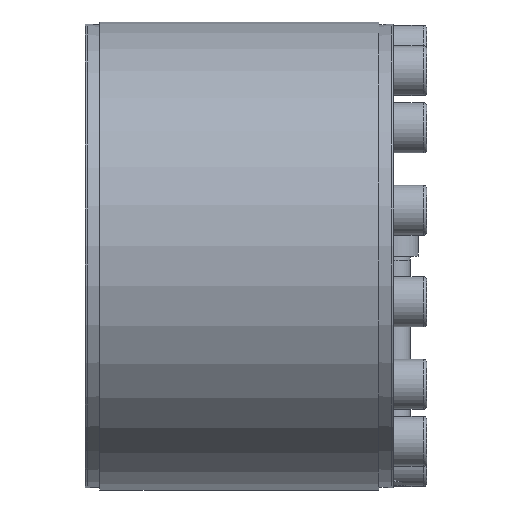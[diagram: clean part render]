
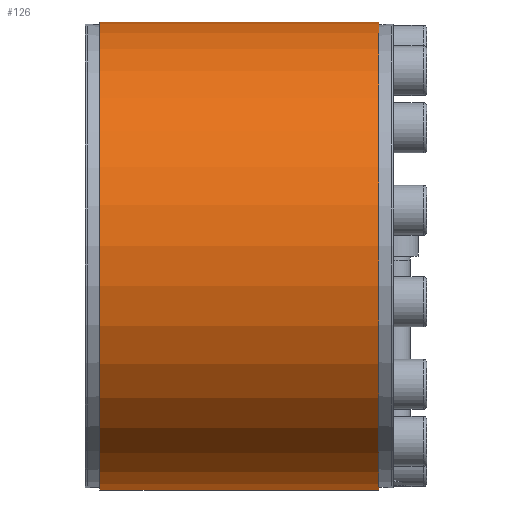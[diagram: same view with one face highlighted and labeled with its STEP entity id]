
A CAD part, left-side view. The second image highlights one B-rep face of the part: STEP entity #126.
In plain terms, the highlighted cylindrical face has radius 112.5 mm (diameter 225 mm), a partial arc.
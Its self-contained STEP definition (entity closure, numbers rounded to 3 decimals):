
#126 = ADVANCED_FACE( '', ( #319 ), #320, .T. );
#319 = FACE_OUTER_BOUND( '', #673, .T. );
#320 = CYLINDRICAL_SURFACE( '', #674, 112.5 );
#673 = EDGE_LOOP( '', ( #1104, #1105, #1106, #1107 ) );
#674 = AXIS2_PLACEMENT_3D( '', #1108, #1109, #1110 );
#1104 = ORIENTED_EDGE( '', *, *, #1640, .F. );
#1105 = ORIENTED_EDGE( '', *, *, #1650, .T. );
#1106 = ORIENTED_EDGE( '', *, *, #1651, .F. );
#1107 = ORIENTED_EDGE( '', *, *, #1652, .F. );
#1108 = CARTESIAN_POINT( '', ( 0., -60., 0. ) );
#1109 = DIRECTION( '', ( 0., 1., 0. ) );
#1110 = DIRECTION( '', ( 0., 0., -1. ) );
#1640 = EDGE_CURVE( '', #1942, #1944, #1945, .T. );
#1650 = EDGE_CURVE( '', #1942, #1960, #1961, .T. );
#1651 = EDGE_CURVE( '', #1962, #1960, #1963, .F. );
#1652 = EDGE_CURVE( '', #1944, #1962, #1964, .T. );
#1942 = VERTEX_POINT( '', #2427 );
#1944 = VERTEX_POINT( '', #2430 );
#1945 = LINE( '', #2431, #2432 );
#1960 = VERTEX_POINT( '', #2454 );
#1961 = CIRCLE( '', #2455, 112.5 );
#1962 = VERTEX_POINT( '', #2456 );
#1963 = LINE( '', #2457, #2458 );
#1964 = CIRCLE( '', #2459, 112.5 );
#2427 = CARTESIAN_POINT( '', ( 23.569, 141., 110.003 ) );
#2430 = CARTESIAN_POINT( '', ( 23.569, 7., 110.003 ) );
#2431 = CARTESIAN_POINT( '', ( 23.569, -60., 110.003 ) );
#2432 = VECTOR( '', #2818, 1000. );
#2454 = CARTESIAN_POINT( '', ( 26.494, 141., 109.336 ) );
#2455 = AXIS2_PLACEMENT_3D( '', #2829, #2830, #2831 );
#2456 = CARTESIAN_POINT( '', ( 26.494, 7., 109.336 ) );
#2457 = CARTESIAN_POINT( '', ( 26.494, -60., 109.336 ) );
#2458 = VECTOR( '', #2832, 1000. );
#2459 = AXIS2_PLACEMENT_3D( '', #2833, #2834, #2835 );
#2818 = DIRECTION( '', ( 0., -1., 0. ) );
#2829 = CARTESIAN_POINT( '', ( 0., 141., 0. ) );
#2830 = DIRECTION( '', ( 0., -1., 0. ) );
#2831 = DIRECTION( '', ( 0., 0., -1. ) );
#2832 = DIRECTION( '', ( 0., -1., 0. ) );
#2833 = CARTESIAN_POINT( '', ( 0., 7., 0. ) );
#2834 = DIRECTION( '', ( 0., -1., 0. ) );
#2835 = DIRECTION( '', ( 0., 0., -1. ) );
